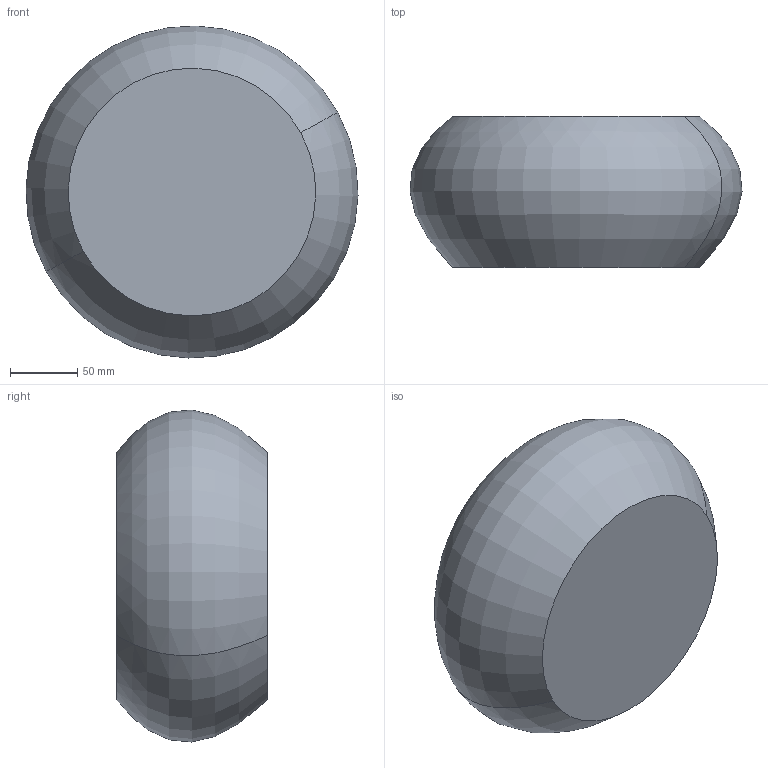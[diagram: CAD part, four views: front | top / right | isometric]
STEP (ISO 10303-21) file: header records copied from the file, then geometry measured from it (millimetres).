
FILE_DESCRIPTION(('CATIA V5 STEP Exchange'),'2;1');
FILE_NAME('C:\_Andres\UNIVERSIDAD\IQS\ASIGNATURAS\DAO\EXF\EXF-15161c\1original\Aranda_Gil_Ej10-decora_v2.stp','2016-03-04T22:24:11+00:00',('none'),('none'),'CATIA Version 5 Release 20 SP 1 (IN-10)','CATIA V5 STEP AP203','none');
FILE_SCHEMA(('CONFIG_CONTROL_DESIGN'));
Length unit declared in the file: millimetre
Products named in the file (1): Aranda_Gil_Ej10-decora_v2
Bounding box: 246.68 x 112 x 246.68 mm (x, y, z)
Volume: 4524336.5 mm3; surface area: 146269.7 mm2
Topology: 1 solids, 1 shells, 4 faces, 6 edges, 4 vertices
Faces by surface type: revolution 2, plane 2
Entity records: 166 total; most frequent: CARTESIAN_POINT 50, DIRECTION 12, ORIENTED_EDGE 12, AXIS2_PLACEMENT_3D 8, EDGE_CURVE 6, ADVANCED_FACE 4, B_SPLINE_CURVE_WITH_KNOTS 4, CC_DESIGN_PERSON_AND_ORGANIZATION_ASSIGNMENT 4
